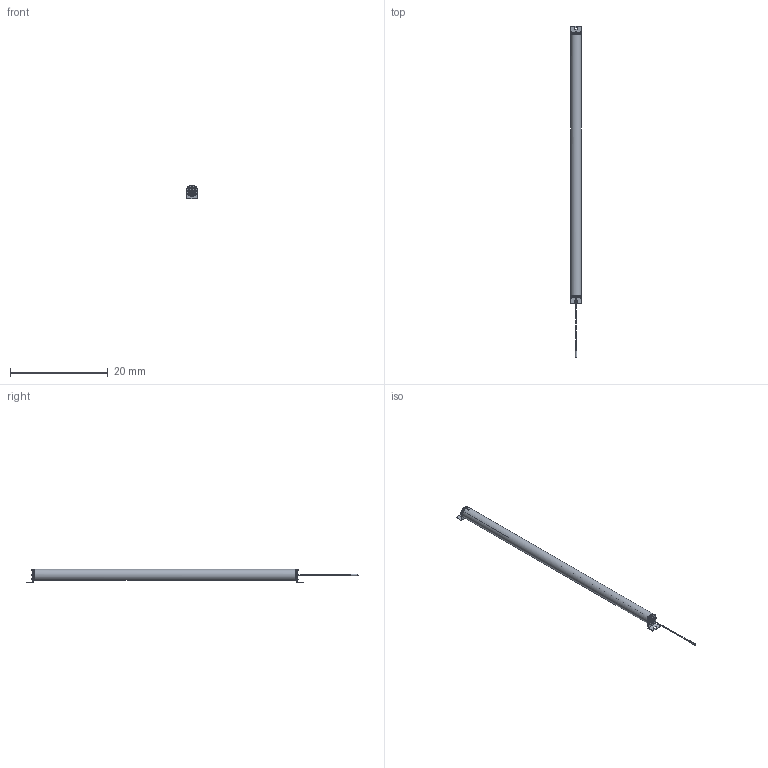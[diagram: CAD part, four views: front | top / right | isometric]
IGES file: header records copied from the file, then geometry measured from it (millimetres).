
Start section:  Autodesk DirectConnect version 7.0.27.0 ---- IGES version 5.3
Global section: file name: C:\ACADFILES\SS_PYLONS\CUSTOMER_FILES\SS-52-PYLON_3D_SMB_PT.iges; native system: Autodesk DirectConnect 7.0.27.0; preprocessor: 7.0.27.0; author: ENGINEERMAIN; organization: Unknown; date: 20150810.125554; units: millimetre
Bounding box: 2.26 x 68.01 x 2.75 mm (x, y, z)
Surface area: 1567.5 mm2 (no closed solid volume)
Topology: 0 solids, 0 shells, 772 faces, 3944 edges, 3944 vertices
Faces by surface type: bspline 772
